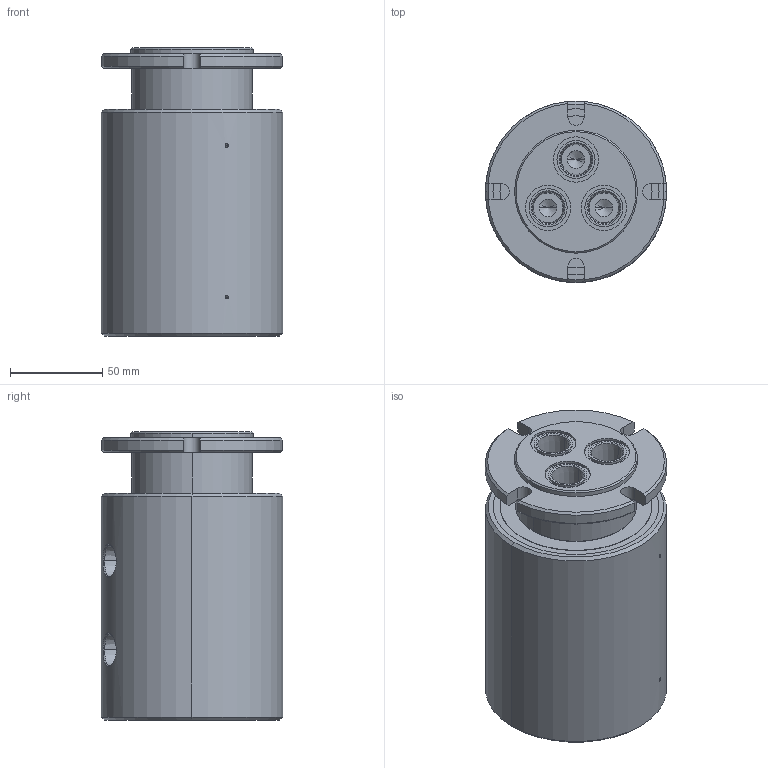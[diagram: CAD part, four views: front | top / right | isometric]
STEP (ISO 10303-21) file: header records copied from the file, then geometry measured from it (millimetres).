
FILE_DESCRIPTION (( 'STEP AP214' ), '1' );
FILE_NAME ('GP(M)-330.STEP', '2013-02-05T22:44:14', ( '' ), ( '' ), 'SwSTEP 2.0', 'SolidWorks 2011', '' );
FILE_SCHEMA (( 'AUTOMOTIVE_DESIGN' ));
Length unit declared in the file: inch
Products named in the file (1): GP(M)-330
Bounding box: 98.42 x 98.42 x 156.34 mm (x, y, z)
Volume: 1034705 mm3; surface area: 79325.6 mm2
Topology: 1 solids, 1 shells, 180 faces, 424 edges, 258 vertices
Faces by surface type: cylinder 77, cone 56, plane 39, bspline 6, torus 2
Entity records: 6206 total; most frequent: CARTESIAN_POINT 1743, DIRECTION 900, ORIENTED_EDGE 800, EDGE_CURVE 400, AXIS2_PLACEMENT_3D 369, VERTEX_POINT 258, EDGE_LOOP 216, CIRCLE 194
